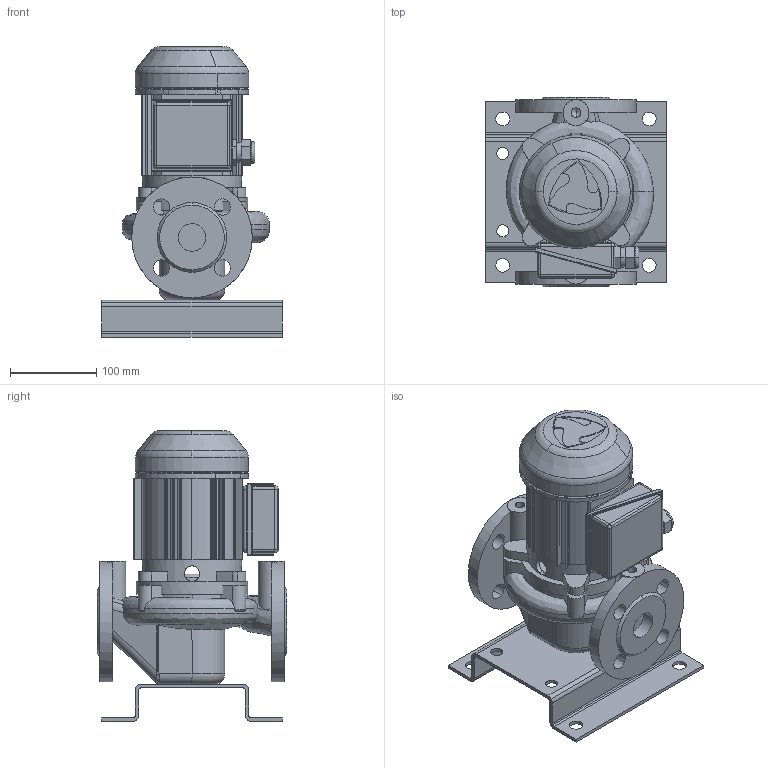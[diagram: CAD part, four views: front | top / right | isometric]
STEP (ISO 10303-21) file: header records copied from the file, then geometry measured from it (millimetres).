
FILE_DESCRIPTION(('STEP AP214'),'1');
FILE_NAME('export.stp','2018-05-29T08:37:48',(' '),(' '),'Spatial InterOp 3D',' ',' ');
FILE_SCHEMA(('AUTOMOTIVE_DESIGN { 1 0 10303 214 1 1 1 1 }'));
Length unit declared in the file: millimetre
Products named in the file (9): V_MOP741; RU_OP_741; TSUOJA_OP_7; KYTKOTELO_OP7_OKN8; W_L32A2250; V_EKN12OP7; V_TLL32AAP15AKP25; V_PPL32A; V_JALKA35973
Assembly tree (8 placements, depth 3):
  W_L32A2250
    V_MOP741
      RU_OP_741
      TSUOJA_OP_7
      KYTKOTELO_OP7_OKN8
    V_EKN12OP7
    V_TLL32AAP15AKP25
    V_PPL32A
    V_JALKA35973
Bounding box: 210 x 220 x 337.5 mm (x, y, z)
Volume: 3290735 mm3; surface area: 543614.2 mm2
Topology: 7 solids, 8 shells, 577 faces, 1566 edges, 1001 vertices
Faces by surface type: cylinder 323, plane 155, bspline 50, torus 19, cone 18, sphere 12
Entity records: 34004 total; most frequent: CARTESIAN_POINT 9472, DIRECTION 3148, ORIENTED_EDGE 3096, STYLED_ITEM 1591, PRESENTATION_STYLE_ASSIGNMENT 1591, COLOUR_RGB 1591, EDGE_CURVE 1548, AXIS2_PLACEMENT_3D 1272
